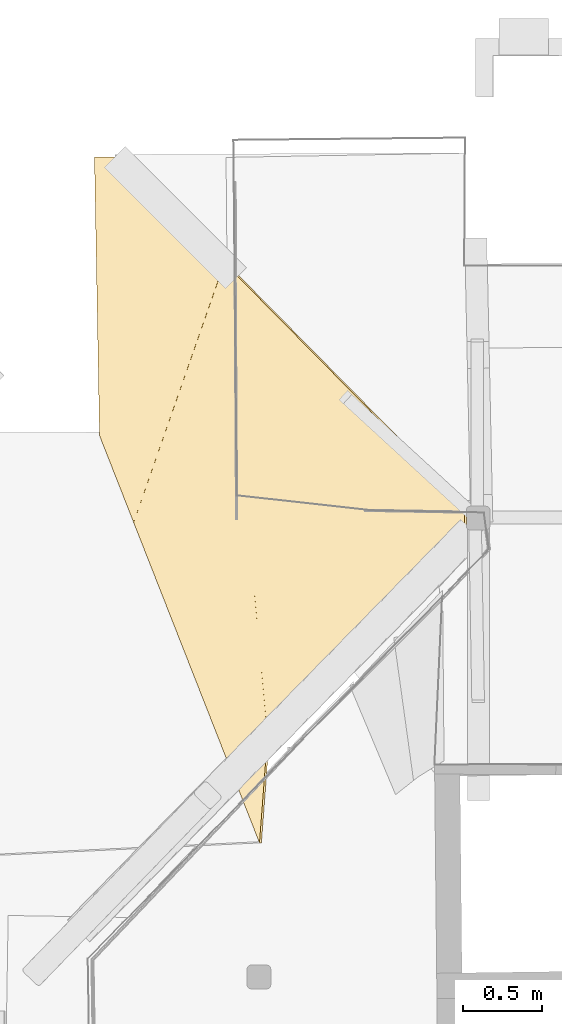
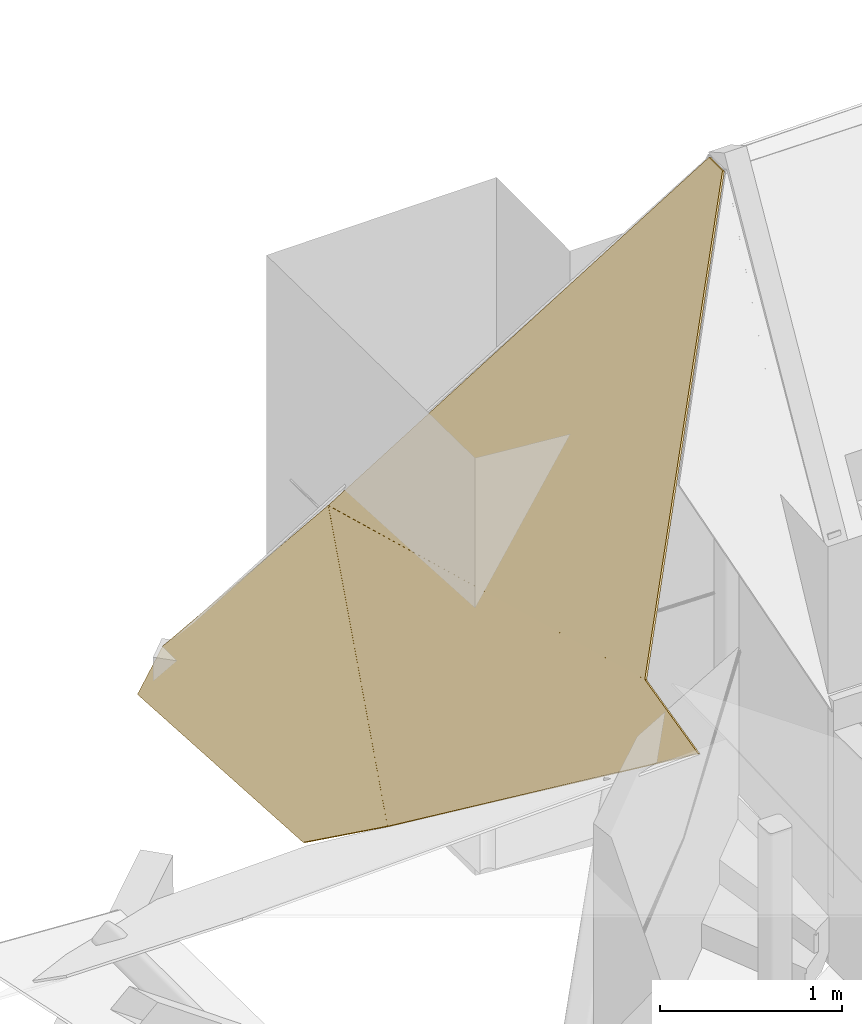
# One storey, part 28 of 39: 1 covering.
"""IFC2X3 building model written with IfcOpenShell, lengths in centimetres."""

from ifc_helpers import new_model, entity, si_unit, converted_unit, direction, frame, origin, origin_with_axes, place, context, subcontext, project, spatial, faceted_brep, material, element, save


model = new_model("IFC2X3")

# Units and contexts
model_context = context("Model", 3, precision=0.0001, world=origin(), true_north=direction((0.225632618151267, 0.974212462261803, 0.0)))
body_context = subcontext(model_context, "Body", "Model", "MODEL_VIEW")
ifc_project = project(units=[si_unit("LENGTHUNIT", "METRE", prefix="CENTI"), si_unit("AREAUNIT", "SQUARE_METRE", prefix="CENTI"), si_unit("VOLUMEUNIT", "CUBIC_METRE", prefix="CENTI"), converted_unit("PLANEANGLEUNIT", "DEGREE", entity("IfcRatioMeasure", 0.0174532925), si_unit("PLANEANGLEUNIT", "RADIAN"), dimensions=[0, 0, 0, 0, 0, 0, 0])], contexts=[model_context])

# Site, building, storey
site_placement = place(None, origin_with_axes())
site = spatial("IfcSite", under=ifc_project, at=site_placement, Name="Default Site", CompositionType="ELEMENT")
building_placement = place(site_placement, origin_with_axes())
building = spatial("IfcBuilding", under=site, at=building_placement, Name="Default Building", CompositionType="ELEMENT")
storey_placement = place(building_placement, frame((0.0, 0.0, 1088.91037418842), z_axis=(0.0, 0.0, 1.0), x_axis=(1.0, 0.0, 0.0)))
storey = spatial("IfcBuildingStorey", under=building, at=storey_placement, Name="Mezzanine", CompositionType="ELEMENT", Elevation=1088.91037418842)

# Covering
ifc_material = material(Name="Blanc")
covering_placement = place(storey_placement, frame((572.519129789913, 468.518989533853, 279.702416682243), z_axis=(0.0, 0.0, 1.0), x_axis=(1.0, 0.0, 0.0)))
element("IfcCovering", 1, at=covering_placement, inside=storey, material=ifc_material, Name="Faux-plafond 1779083", PredefinedType="CEILING", context=body_context, shape_type="Brep", body=[
    faceted_brep([(-200.245017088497, 162.375385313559, -118.283773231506), (-266.542255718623, 229.257423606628, -229.933357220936), (-282.494042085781, 229.296476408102, -256.682227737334), (-279.301260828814, 53.0562229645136, -250.064299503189), (-257.67485862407, -1.99109836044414, -213.405440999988), (-256.472438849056, -1.99624821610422, -214.122510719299), (-278.098841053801, 53.0510731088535, -250.781369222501), (-281.291628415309, 229.291374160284, -257.399308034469), (-265.339842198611, 229.252273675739, -230.650437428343), (-199.042597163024, 162.370283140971, -119.000843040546), (-199.042600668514, 162.370283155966, -119.000840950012), (-265.339811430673, 229.252312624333, -230.650432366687), (-266.542206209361, 229.257454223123, -229.933368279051), (-200.245007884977, 162.375419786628, -118.28375804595), (-265.339821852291, 229.252273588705, -230.650449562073), (-281.291646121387, 229.291352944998, -257.39929750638), (-282.494038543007, 229.296496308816, -256.682229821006), (-266.542214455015, 229.257416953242, -229.933381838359), (-281.291646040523, 229.291374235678, -257.399297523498), (-278.098837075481, 53.051073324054, -250.781365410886), (-279.301251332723, 53.056223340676, -250.064294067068), (-282.494041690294, 229.296476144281, -256.682234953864), (-278.098839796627, 53.0510731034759, -250.781369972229), (-256.472444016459, -1.99625597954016, -214.122519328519), (-257.674860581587, -1.99110635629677, -213.405451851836), (-279.301256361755, 53.0562227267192, -250.064302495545), (-199.042591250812, 162.370270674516, -119.000825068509), (-200.245015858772, 162.375383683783, -118.283771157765), (-257.674852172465, -1.99110247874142, -213.405437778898)], [[[0, 1, 2, 3, 4]], [[5, 6, 7, 8, 9]], [[10, 11, 12, 13]], [[14, 15, 16, 17]], [[18, 19, 20, 21]], [[22, 23, 24, 25]], [[5, 26, 27, 28]]]),
    faceted_brep([(-48.0791750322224, 8.11374857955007, 155.101083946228), (-200.261899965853, 162.386591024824, -118.342517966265), (-172.913308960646, -137.504880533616, -62.7429110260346), (-48.2748299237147, -6.87872681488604, 155.110053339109), (-47.0555010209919, -6.89503476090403, 154.42225856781), (-171.693991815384, -137.521212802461, -63.4307260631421), (-199.042576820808, 162.370282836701, -119.030322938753), (-46.8598576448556, 8.09744014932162, 154.41326877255), (-46.859902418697, 8.09744074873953, 154.413294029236), (-199.042606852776, 162.37025865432, -119.030319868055), (-200.261899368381, 162.386582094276, -118.342523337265), (-48.0791723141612, 8.11375934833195, 155.101088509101), (-199.042600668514, 162.370283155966, -119.030309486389), (-171.693985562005, -137.521202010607, -63.4306709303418), (-172.913260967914, -137.504871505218, -62.7428859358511), (-200.261892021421, 162.386593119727, -118.342510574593), (-171.694010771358, -137.521212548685, -63.4307153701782), (-47.055503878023, -6.89502312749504, 154.422253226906), (-48.2748253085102, -6.87871068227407, 155.11004102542), (-172.913282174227, -137.504885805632, -62.742923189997), (-46.8599163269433, 8.09744091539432, 154.413269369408), (-48.0791910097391, 8.11374877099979, 155.101055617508), (-48.2748118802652, -6.87872704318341, 155.110065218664)], [[[0, 1, 2, 3]], [[4, 5, 6, 7]], [[8, 9, 10, 11]], [[12, 13, 14, 15]], [[16, 17, 18, 19]], [[4, 20, 21, 22]]]),
    faceted_brep([(-257.685250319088, -1.97674557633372, -213.512254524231), (-178.001941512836, -204.809563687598, -69.6192062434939), (-172.909881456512, -137.467949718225, -62.6635754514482), (-200.255396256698, 162.389737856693, -118.466124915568), (-199.042600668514, 162.370283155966, -119.165254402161), (-171.697086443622, -137.487452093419, -63.3627046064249), (-176.789146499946, -204.829066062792, -70.3183353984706), (-256.472455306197, -1.99624795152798, -214.211383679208), (-256.472438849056, -1.99624821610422, -214.211393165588), (-176.789132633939, -204.829062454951, -70.3183379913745), (-178.001955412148, -204.809577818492, -69.619218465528), (-257.685261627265, -1.97676357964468, -213.512273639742), (-176.789135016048, -204.829066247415, -70.3183420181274), (-171.69705659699, -137.487453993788, -63.3627080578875), (-172.909884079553, -137.467947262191, -62.6635973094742), (-178.001962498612, -204.809559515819, -69.6192312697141), (-171.697062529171, -137.487452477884, -63.3627183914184), (-199.042616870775, 162.370276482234, -119.165282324), (-200.255440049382, 162.389726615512, -118.466163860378), (-172.909890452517, -137.467956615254, -62.6636081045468), (-256.472439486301, -1.99624734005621, -214.211394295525), (-257.685261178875, -1.97673064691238, -213.512273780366), (-200.25543322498, 162.389767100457, -118.466153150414)], [[[0, 1, 2, 3]], [[4, 5, 6, 7]], [[8, 9, 10, 11]], [[12, 13, 14, 15]], [[16, 17, 18, 19]], [[4, 20, 21, 22]]]),
])

save(model, "model.ifc")
